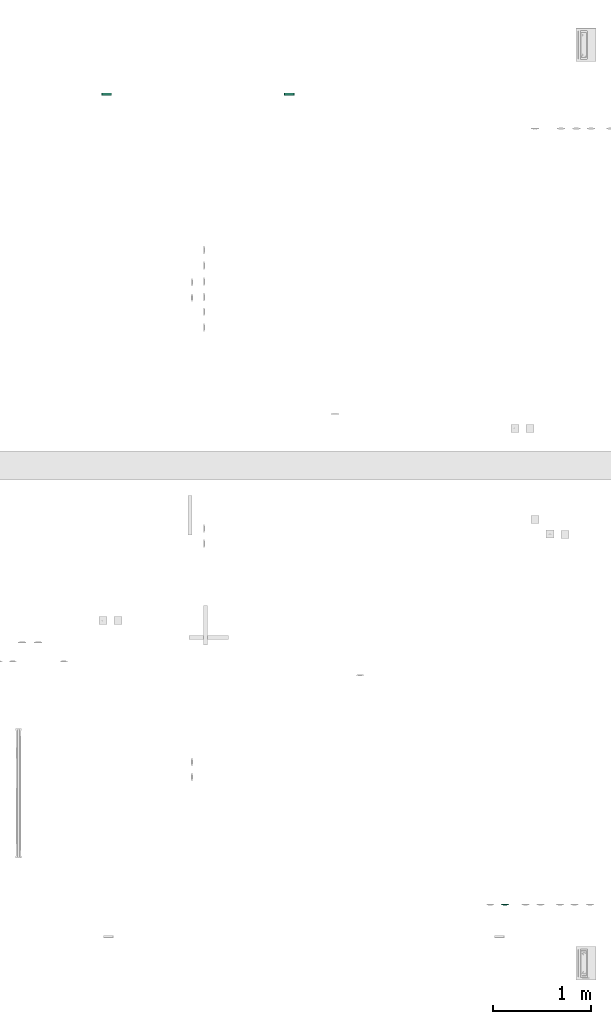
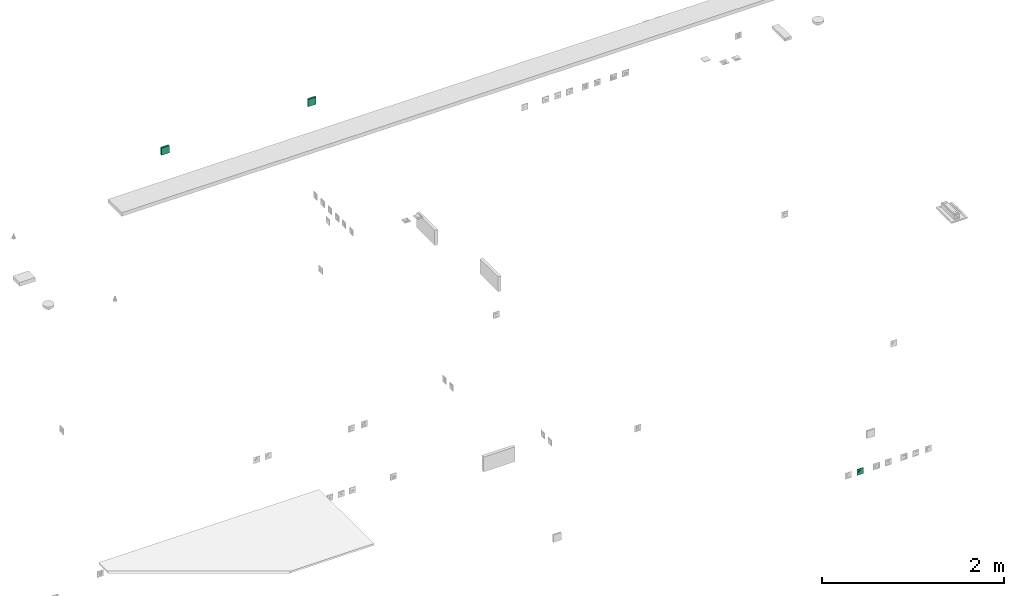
# One storey, part 67 of 146: 3 flow terminals.
"""IFC2X3 building model written with IfcOpenShell, lengths in metres."""

from ifc_helpers import new_model, entity, si_unit, converted_unit, derived_unit, direction, frame, origin, origin_2d_with_axis, place, context, subcontext, project, spatial, rectangle, extrude, face_set, surface_model, source, transform, mapped, type_object, type_shapes, element, save


model = new_model("IFC2X3")

# Units and contexts
model_context = context("Model", 3, precision=1e-05, world=origin(), true_north=direction((6.12303176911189e-17, 1.0)))
body_context = subcontext(model_context, "Body", "Model", "MODEL_VIEW")
ifc_project = project(units=[si_unit("LENGTHUNIT", "METRE"), si_unit("AREAUNIT", "SQUARE_METRE"), si_unit("VOLUMEUNIT", "CUBIC_METRE"), converted_unit("PLANEANGLEUNIT", "DEGREE", entity("IfcRatioMeasure", 0.0174532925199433), si_unit("PLANEANGLEUNIT", "RADIAN"), dimensions=[0, 0, 0, 0, 0, 0, 0]), si_unit("MASSUNIT", "GRAM", prefix="KILO"), derived_unit("MASSDENSITYUNIT", [(si_unit("MASSUNIT", "GRAM", prefix="KILO"), 1), (si_unit("LENGTHUNIT", "METRE"), -3)]), si_unit("TIMEUNIT", "SECOND"), si_unit("FREQUENCYUNIT", "HERTZ"), si_unit("THERMODYNAMICTEMPERATUREUNIT", "DEGREE_CELSIUS"), derived_unit("THERMALTRANSMITTANCEUNIT", [(si_unit("MASSUNIT", "GRAM", prefix="KILO"), 1), (si_unit("THERMODYNAMICTEMPERATUREUNIT", "KELVIN"), -1), (si_unit("TIMEUNIT", "SECOND"), -3)]), derived_unit("VOLUMETRICFLOWRATEUNIT", [(si_unit("LENGTHUNIT", "METRE"), 3), (si_unit("TIMEUNIT", "SECOND"), -1)]), si_unit("ELECTRICCURRENTUNIT", "AMPERE"), si_unit("ELECTRICVOLTAGEUNIT", "VOLT"), si_unit("POWERUNIT", "WATT"), si_unit("FORCEUNIT", "NEWTON"), si_unit("ILLUMINANCEUNIT", "LUX"), si_unit("LUMINOUSFLUXUNIT", "LUMEN"), si_unit("LUMINOUSINTENSITYUNIT", "CANDELA"), derived_unit("USERDEFINED", [(si_unit("MASSUNIT", "GRAM", prefix="KILO"), -1), (si_unit("LENGTHUNIT", "METRE"), -2), (si_unit("TIMEUNIT", "SECOND"), 3), (si_unit("LUMINOUSFLUXUNIT", "LUMEN"), 1)]), derived_unit("LINEARVELOCITYUNIT", [(si_unit("LENGTHUNIT", "METRE"), 1), (si_unit("TIMEUNIT", "SECOND"), -1)]), si_unit("PRESSUREUNIT", "PASCAL"), derived_unit("USERDEFINED", [(si_unit("LENGTHUNIT", "METRE"), -2), (si_unit("MASSUNIT", "GRAM", prefix="KILO"), 1), (si_unit("TIMEUNIT", "SECOND"), -2)])], contexts=[model_context])

# Site, building, storey
site_placement = place(None, origin())
site = spatial("IfcSite", under=ifc_project, at=site_placement, Name="Default", CompositionType="ELEMENT")
building_placement = place(site_placement, origin())
building = spatial("IfcBuilding", under=site, at=building_placement, CompositionType="ELEMENT")
storey_placement = place(building_placement, origin())
storey = spatial("IfcBuildingStorey", under=building, at=storey_placement, Name="S01", CompositionType="ELEMENT", Elevation=0.0)

# Flow terminals
light_fixture_type_1 = type_object("IfcLightFixtureType", Name="IP20 ONDULEE", PredefinedType="NOTDEFINED")
shared_shape_1 = source(origin(), body_context, "Body", "SurfaceModel", [
    surface_model("IfcFaceBasedSurfaceModel", [(-0.00225000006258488, 0.0127499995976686, 0.00949633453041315), (0.0, 0.0104999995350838, 0.00949633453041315), (0.0, 0.0115376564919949, 0.0101656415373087), (0.0, 0.0139623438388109, 0.0101656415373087), (0.0, 0.0144589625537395, 0.00984531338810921), (0.0, 0.0121178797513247, 0.0102778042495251), (0.0, 0.0133821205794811, 0.0102778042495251), (0.0, 0.0127499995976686, 0.010399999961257), (0.0, 0.0149999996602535, 0.00949633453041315), (0.00225000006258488, 0.0127499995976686, 0.00949633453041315), (0.0, 0.0110410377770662, 0.00984531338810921), (0.0, 0.0127499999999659, 0.00949633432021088), (0.00225000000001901, 0.0127499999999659, 0.00949633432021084), (0.00217333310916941, 0.0121676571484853, 0.00949633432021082), (0.00194855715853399, 0.0116249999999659, 0.00949633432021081), (0.00159099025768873, 0.0111590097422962, 0.00949633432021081), (0.001125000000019, 0.010801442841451, 0.00949633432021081), (0.00058234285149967, 0.0105766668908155, 0.00949633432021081), (0.0, 0.0104999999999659, 0.00949633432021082), (-0.000582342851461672, 0.0105766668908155, 0.00949633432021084), (-0.001124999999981, 0.010801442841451, 0.00949633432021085), (-0.00159099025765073, 0.0111590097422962, 0.00949633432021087), (-0.00194855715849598, 0.011624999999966, 0.00949633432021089), (-0.0021733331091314, 0.0121676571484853, 0.00949633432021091), (-0.00224999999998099, 0.012749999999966, 0.00949633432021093), (-0.00217333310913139, 0.0133323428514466, 0.00949633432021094), (-0.00194855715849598, 0.013874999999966, 0.00949633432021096), (-0.00159099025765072, 0.0143409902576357, 0.00949633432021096), (-0.00112499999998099, 0.0146985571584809, 0.00949633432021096), (-0.00058234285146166, 0.0149233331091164, 0.00949633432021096), (0.0, 0.0149999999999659, 0.00949633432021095), (0.000582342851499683, 0.0149233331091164, 0.00949633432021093), (0.00112500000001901, 0.0146985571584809, 0.00949633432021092), (0.00159099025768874, 0.0143409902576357, 0.00949633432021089), (0.001948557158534, 0.0138749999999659, 0.00949633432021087), (0.00217333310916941, 0.0133323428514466, 0.00949633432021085), (0.00225000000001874, 0.0127499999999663, -0.00360000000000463), (0.00217333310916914, 0.0121676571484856, -0.00360000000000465), (0.00194855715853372, 0.0116249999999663, -0.00360000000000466), (0.00159099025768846, 0.0111590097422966, -0.00360000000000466), (0.00112500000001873, 0.0108014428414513, -0.00360000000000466), (0.000582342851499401, 0.0105766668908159, -0.00360000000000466), (0.0, 0.0104999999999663, -0.00360000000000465), (-0.000582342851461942, 0.0105766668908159, -0.00360000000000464), (-0.00112499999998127, 0.0108014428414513, -0.00360000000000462), (-0.001590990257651, 0.0111590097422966, -0.0036000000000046), (-0.00194855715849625, 0.0116249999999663, -0.00360000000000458), (-0.00217333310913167, 0.0121676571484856, -0.00360000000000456), (-0.00224999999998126, 0.0127499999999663, -0.00360000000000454), (-0.00217333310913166, 0.013332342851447, -0.00360000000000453), (-0.00194855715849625, 0.0138749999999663, -0.00360000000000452), (-0.00159099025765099, 0.014340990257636, -0.00360000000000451), (-0.00112499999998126, 0.0146985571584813, -0.00360000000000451), (-0.000582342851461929, 0.0149233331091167, -0.00360000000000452), (0.0, 0.0149999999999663, -0.00360000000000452), (0.000582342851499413, 0.0149233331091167, -0.00360000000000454), (0.00112500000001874, 0.0146985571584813, -0.00360000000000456), (0.00159099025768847, 0.014340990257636, -0.00360000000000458), (0.00194855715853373, 0.0138749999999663, -0.0036000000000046), (0.00217333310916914, 0.013332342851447, -0.00360000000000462), (0.0270000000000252, 0.026999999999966, 0.0113999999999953), (-0.0269999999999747, 0.026999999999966, 0.0113999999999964), (-0.0269999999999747, -0.0270000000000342, 0.0113999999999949), (0.0270000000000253, -0.0270000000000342, 0.0113999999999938), (-0.0199999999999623, 0.0, 0.0113999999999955), (-0.0193185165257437, -0.00517638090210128, 0.0113999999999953), (-0.0173205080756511, -0.0100000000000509, 0.0113999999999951), (-0.0141421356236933, -0.0141421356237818, 0.011399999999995), (-0.00999999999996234, -0.0173205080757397, 0.0113999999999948), (-0.00517638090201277, -0.0193185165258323, 0.0113999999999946), (0.0, -0.0200000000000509, 0.0113999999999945), (0.00517638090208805, -0.0193185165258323, 0.0113999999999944), (0.0100000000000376, -0.0173205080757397, 0.0113999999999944), (0.0141421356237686, -0.0141421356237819, 0.0113999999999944), (0.0173205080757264, -0.010000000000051, 0.0113999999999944), (0.0193185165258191, -0.00517638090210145, 0.0113999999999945), (0.0200000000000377, 0.0, 0.0113999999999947), (0.0193185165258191, 0.00517638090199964, 0.0113999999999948), (0.0173205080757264, 0.0099999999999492, 0.011399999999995), (0.0141421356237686, 0.0141421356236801, 0.0113999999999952), (0.0100000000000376, 0.0173205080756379, 0.0113999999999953), (0.00517638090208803, 0.0193185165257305, 0.0113999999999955), (0.0, 0.0199999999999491, 0.0113999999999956), (-0.00517638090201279, 0.0193185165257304, 0.0113999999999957), (-0.00999999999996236, 0.0173205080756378, 0.0113999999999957), (-0.0141421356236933, 0.01414213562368, 0.0113999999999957), (-0.0173205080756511, 0.00999999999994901, 0.0113999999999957), (-0.0193185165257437, 0.00517638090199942, 0.0113999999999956), (0.0270000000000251, 0.0269999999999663, 0.00199999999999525), (0.0270000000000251, -0.0270000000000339, 0.00199999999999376), (-0.0269999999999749, -0.0270000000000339, 0.00199999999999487), (-0.0269999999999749, 0.0269999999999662, 0.00199999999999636), (0.0210000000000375, 0.0, 0.00199999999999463), (0.0202844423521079, -0.00543519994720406, 0.00199999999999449), (0.0181865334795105, -0.0105000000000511, 0.0019999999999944), (0.0148492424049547, -0.0148492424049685, 0.00199999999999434), (0.0105000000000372, -0.0181865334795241, 0.00199999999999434), (0.0054351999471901, -0.0202844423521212, 0.00199999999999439), (0.0, -0.0210000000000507, 0.00199999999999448), (-0.00543519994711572, -0.020284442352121, 0.00199999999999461), (-0.0104999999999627, -0.0181865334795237, 0.00199999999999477), (-0.0148492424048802, -0.014849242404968, 0.00199999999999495), (-0.0181865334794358, -0.0105000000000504, 0.00199999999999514), (-0.020284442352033, -0.00543519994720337, 0.00199999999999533), (-0.0209999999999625, 0.0, 0.00199999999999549), (-0.0202844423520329, 0.0054351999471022, 0.00199999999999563), (-0.0181865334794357, 0.0104999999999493, 0.00199999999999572), (-0.01484924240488, 0.0148492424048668, 0.00199999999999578), (-0.0104999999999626, 0.0181865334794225, 0.00199999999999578), (-0.00543519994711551, 0.0202844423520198, 0.00199999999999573), (0.0, 0.0209999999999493, 0.00199999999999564), (0.00543519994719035, 0.0202844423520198, 0.00199999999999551), (0.0105000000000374, 0.0181865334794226, 0.00199999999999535), (0.0148492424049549, 0.0148492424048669, 0.00199999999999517), (0.0181865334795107, 0.0104999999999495, 0.00199999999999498), (0.0202844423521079, 0.00543519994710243, 0.00199999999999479), (0.0200000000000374, 0.0, -0.00360000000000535), (0.0193185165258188, -0.00517638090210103, -0.00360000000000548), (0.0173205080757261, -0.0100000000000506, -0.00360000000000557), (0.0141421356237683, -0.0141421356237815, -0.00360000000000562), (0.0100000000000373, -0.0173205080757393, -0.00360000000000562), (0.00517638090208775, -0.0193185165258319, -0.00360000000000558), (0.0, -0.0200000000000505, -0.00360000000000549), (-0.00517638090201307, -0.0193185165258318, -0.00360000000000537), (-0.00999999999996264, -0.0173205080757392, -0.00360000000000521), (-0.0141421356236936, -0.0141421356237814, -0.00360000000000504), (-0.0173205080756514, -0.0100000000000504, -0.00360000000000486), (-0.019318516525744, -0.00517638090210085, -0.00360000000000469), (-0.0199999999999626, 0.0, -0.00360000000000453), (-0.0193185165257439, 0.00517638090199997, -0.0036000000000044), (-0.0173205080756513, 0.00999999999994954, -0.00360000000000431), (-0.0141421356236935, 0.0141421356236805, -0.00360000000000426), (-0.00999999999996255, 0.0173205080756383, -0.00360000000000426), (-0.00517638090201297, 0.0193185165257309, -0.0036000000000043), (0.0, 0.0199999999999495, -0.00360000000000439), (0.00517638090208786, 0.0193185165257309, -0.00360000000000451), (0.0100000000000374, 0.0173205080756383, -0.00360000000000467), (0.0141421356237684, 0.0141421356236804, -0.00360000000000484), (0.0173205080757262, 0.0099999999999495, -0.00360000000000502), (0.0193185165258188, 0.00517638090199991, -0.00360000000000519), (-0.0123499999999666, 0.0, -0.00360000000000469), (-0.0122562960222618, -0.000711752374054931, -0.00360000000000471), (-0.0119815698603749, -0.00137500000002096, -0.00360000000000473), (-0.0115445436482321, -0.00194454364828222, -0.00360000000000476), (-0.0109749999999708, -0.00238156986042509, -0.00360000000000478), (-0.0103117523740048, -0.00265629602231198, -0.0036000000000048), (-0.00959999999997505, -0.00275000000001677, -0.00360000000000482), (-0.0088882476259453, -0.00265629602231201, -0.00360000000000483), (-0.00822499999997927, -0.00238156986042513, -0.00360000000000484), (-0.00765545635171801, -0.00194454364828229, -0.00360000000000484), (-0.00721843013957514, -0.00137500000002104, -0.00360000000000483), (-0.00694370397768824, -0.000711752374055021, -0.00360000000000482), (-0.00684999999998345, 0.0, -0.0036000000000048), (-0.00694370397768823, 0.000711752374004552, -0.00360000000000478), (-0.00721843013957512, 0.00137499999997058, -0.00360000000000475), (-0.00765545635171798, 0.00194454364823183, -0.00360000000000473), (-0.00822499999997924, 0.00238156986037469, -0.0036000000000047), (-0.00888824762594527, 0.00265629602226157, -0.00360000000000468), (-0.00959999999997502, 0.00274999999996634, -0.00360000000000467), (-0.0103117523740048, 0.00265629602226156, -0.00360000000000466), (-0.0109749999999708, 0.00238156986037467, -0.00360000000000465), (-0.011544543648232, 0.00194454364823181, -0.00360000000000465), (-0.0119815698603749, 0.00137499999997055, -0.00360000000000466), (-0.0122562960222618, 0.000711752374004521, -0.00360000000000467), (0.00685000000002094, 0.0, -0.00360000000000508), (0.0069437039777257, -0.00071175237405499, -0.0036000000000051), (0.00721843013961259, -0.00137500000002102, -0.00360000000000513), (0.00765545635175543, -0.00194454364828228, -0.00360000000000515), (0.00822500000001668, -0.00238156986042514, -0.00360000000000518), (0.00888824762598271, -0.00265629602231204, -0.0036000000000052), (0.00960000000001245, -0.00275000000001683, -0.00360000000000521), (0.0103117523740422, -0.00265629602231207, -0.00360000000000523), (0.0109750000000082, -0.00238156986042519, -0.00360000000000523), (0.0115445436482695, -0.00194454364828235, -0.00360000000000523), (0.0119815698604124, -0.0013750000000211, -0.00360000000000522), (0.0122562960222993, -0.00071175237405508, -0.00360000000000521), (0.012350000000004, 0.0, -0.00360000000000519), (0.0122562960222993, 0.000711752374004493, -0.00360000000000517), (0.0119815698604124, 0.00137499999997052, -0.00360000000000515), (0.0115445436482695, 0.00194454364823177, -0.00360000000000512), (0.0109750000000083, 0.00238156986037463, -0.0036000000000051), (0.0103117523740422, 0.00265629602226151, -0.00360000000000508), (0.00960000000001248, 0.00274999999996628, -0.00360000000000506), (0.00888824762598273, 0.0026562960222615, -0.00360000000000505), (0.0082250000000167, 0.00238156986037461, -0.00360000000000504), (0.00765545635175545, 0.00194454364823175, -0.00360000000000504), (0.0072184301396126, 0.00137499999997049, -0.00360000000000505), (0.00694370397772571, 0.000711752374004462, -0.00360000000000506), (0.0210000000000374, 0.0, -0.00460000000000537), (0.0202844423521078, -0.00543519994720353, -0.00460000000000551), (0.0181865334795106, -0.0105000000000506, -0.0046000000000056), (0.0148492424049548, -0.0148492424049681, -0.00460000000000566), (0.0105000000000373, -0.0181865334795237, -0.00460000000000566), (0.00543519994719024, -0.0202844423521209, -0.00460000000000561), (0.0, -0.0210000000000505, -0.00460000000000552), (-0.00543519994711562, -0.0202844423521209, -0.00460000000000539), (-0.0104999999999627, -0.0181865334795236, -0.00460000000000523), (-0.0148492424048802, -0.0148492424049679, -0.00460000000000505), (-0.0181865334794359, -0.0105000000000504, -0.00460000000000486), (-0.0202844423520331, -0.00543519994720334, -0.00460000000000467), (-0.0209999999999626, 0.0, -0.00460000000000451), (-0.020284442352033, 0.00543519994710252, -0.00460000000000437), (-0.0181865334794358, 0.0104999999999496, -0.00460000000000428), (-0.0148492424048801, 0.0148492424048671, -0.00460000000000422), (-0.0104999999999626, 0.0181865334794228, -0.00460000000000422), (-0.00543519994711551, 0.02028444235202, -0.00460000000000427), (0.0, 0.0209999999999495, -0.00460000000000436), (0.00543519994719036, 0.02028444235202, -0.00460000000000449), (0.0105000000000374, 0.0181865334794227, -0.00460000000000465), (0.0148492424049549, 0.014849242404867, -0.00460000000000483), (0.0181865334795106, 0.0104999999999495, -0.00460000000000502), (0.0202844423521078, 0.00543519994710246, -0.00460000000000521), (-0.00684999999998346, 0.0, -0.0046000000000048), (-0.00694370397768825, 0.000711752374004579, -0.00460000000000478), (-0.00721843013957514, 0.00137499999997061, -0.00460000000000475), (-0.007655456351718, 0.00194454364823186, -0.00460000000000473), (-0.00822499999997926, 0.00238156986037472, -0.0046000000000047), (-0.00888824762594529, 0.0026562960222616, -0.00460000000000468), (-0.00959999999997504, 0.00274999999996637, -0.00460000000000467), (-0.0103117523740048, 0.00265629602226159, -0.00460000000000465), (-0.0109749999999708, 0.0023815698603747, -0.00460000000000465), (-0.0115445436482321, 0.00194454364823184, -0.00460000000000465), (-0.0119815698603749, 0.00137499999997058, -0.00460000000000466), (-0.0122562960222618, 0.000711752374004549, -0.00460000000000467), (-0.0123499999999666, 0.0, -0.00460000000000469), (-0.0122562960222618, -0.000711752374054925, -0.00460000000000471), (-0.0119815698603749, -0.00137500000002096, -0.00460000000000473), (-0.0115445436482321, -0.00194454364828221, -0.00460000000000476), (-0.0109749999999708, -0.00238156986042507, -0.00460000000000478), (-0.0103117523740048, -0.00265629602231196, -0.0046000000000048), (-0.00959999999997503, -0.00275000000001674, -0.00460000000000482), (-0.00888824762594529, -0.00265629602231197, -0.00460000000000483), (-0.00822499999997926, -0.00238156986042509, -0.00460000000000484), (-0.007655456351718, -0.00194454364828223, -0.00460000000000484), (-0.00721843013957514, -0.00137500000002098, -0.00460000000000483), (-0.00694370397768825, -0.000711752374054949, -0.00460000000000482), (0.012350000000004, 0.0, -0.00460000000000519), (0.0122562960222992, 0.000711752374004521, -0.00460000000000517), (0.0119815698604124, 0.00137499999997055, -0.00460000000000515), (0.0115445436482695, 0.0019445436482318, -0.00460000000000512), (0.0109750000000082, 0.00238156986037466, -0.0046000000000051), (0.0103117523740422, 0.00265629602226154, -0.00460000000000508), (0.00960000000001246, 0.00274999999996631, -0.00460000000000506), (0.00888824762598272, 0.00265629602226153, -0.00460000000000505), (0.00822500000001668, 0.00238156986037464, -0.00460000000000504), (0.00765545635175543, 0.00194454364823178, -0.00460000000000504), (0.00721843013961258, 0.00137499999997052, -0.00460000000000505), (0.00694370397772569, 0.00071175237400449, -0.00460000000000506), (0.00685000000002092, 0.0, -0.00460000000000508), (0.00694370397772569, -0.000711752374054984, -0.0046000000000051), (0.00721843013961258, -0.00137500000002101, -0.00460000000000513), (0.00765545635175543, -0.00194454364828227, -0.00460000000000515), (0.00822500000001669, -0.00238156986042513, -0.00460000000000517), (0.00888824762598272, -0.00265629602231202, -0.0046000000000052), (0.00960000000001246, -0.0027500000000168, -0.00460000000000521), (0.0103117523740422, -0.00265629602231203, -0.00460000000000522), (0.0109750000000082, -0.00238156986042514, -0.00460000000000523), (0.0115445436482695, -0.00194454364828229, -0.00460000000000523), (0.0119815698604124, -0.00137500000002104, -0.00460000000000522), (0.0122562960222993, -0.000711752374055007, -0.00460000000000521), (0.040350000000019, 0.0403499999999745, 0.00659999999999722), (0.040350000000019, -0.0403500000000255, 0.00659999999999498), (-0.0403499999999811, -0.0403500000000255, 0.00659999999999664), (-0.0403499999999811, 0.0403499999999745, 0.00659999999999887), (0.027000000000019, 0.0269999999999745, 0.00659999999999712), (-0.0269999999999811, 0.0269999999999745, 0.00659999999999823), (-0.026999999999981, -0.0270000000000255, 0.00659999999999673), (0.027000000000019, -0.0270000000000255, 0.00659999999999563), (0.027000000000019, 0.0269999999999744, 0.0103999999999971), (-0.026999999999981, 0.0269999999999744, 0.0103999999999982), (-0.026999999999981, -0.0270000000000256, 0.0103999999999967), (0.027000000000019, -0.0270000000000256, 0.0103999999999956), (0.040350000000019, 0.0403499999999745, 0.00659999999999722), (0.040350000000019, -0.0403500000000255, 0.00659999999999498), (-0.0403499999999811, -0.0403500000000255, 0.00659999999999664), (-0.0403499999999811, 0.0403499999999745, 0.00659999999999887), (-0.0269999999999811, 0.0269999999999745, 0.00659999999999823), (-0.0269999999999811, -0.0270000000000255, 0.00659999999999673), (0.0270000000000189, -0.0270000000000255, 0.00659999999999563), (0.0270000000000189, 0.0269999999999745, 0.00659999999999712), (0.0403500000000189, 0.0403499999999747, 0.0), (0.0403500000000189, -0.0403500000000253, 0.0), (-0.0403499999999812, -0.0403500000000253, 0.0), (-0.0403499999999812, 0.0403499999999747, 0.0), (0.0270000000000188, 0.0269999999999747, 0.0), (-0.0269999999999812, 0.0269999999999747, 0.0), (-0.0269999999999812, -0.0270000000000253, 0.0), (0.0270000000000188, -0.0270000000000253, 0.0)], [face_set([[[0, 1, 2]], [[3, 4, 2, 5]], [[6, 3, 5, 7]], [[2, 4, 0]], [[4, 8, 0]], [[3, 9, 8]], [[1, 9, 10]], [[2, 3, 6, 7]], [[3, 10, 9]], [[2, 10, 3]], [[11, 1, 0, 8]], [[11, 8, 9, 1]]]), face_set([[[12, 13, 14, 15, 16, 17, 18, 19, 20, 21, 22, 23, 24, 25, 26, 27, 28, 29, 30, 31, 32, 33, 34, 35]], [[36, 37, 38, 39, 40, 41, 42, 43, 44, 45, 46, 47, 48, 49, 50, 51, 52, 53, 54, 55, 56, 57, 58, 59]], [[48, 47, 23, 24]], [[47, 46, 22, 23]], [[45, 44, 20, 21]], [[46, 45, 21, 22]], [[44, 43, 19, 20]], [[18, 19, 43, 42]], [[42, 41, 17, 18]], [[41, 40, 16, 17]], [[39, 38, 14, 15]], [[40, 39, 15, 16]], [[38, 37, 13, 14]], [[12, 13, 37, 36]], [[36, 59, 35, 12]], [[59, 58, 34, 35]], [[57, 56, 32, 33]], [[58, 57, 33, 34]], [[56, 55, 31, 32]], [[30, 31, 55, 54]], [[54, 53, 29, 30]], [[53, 52, 28, 29]], [[51, 50, 26, 27]], [[52, 51, 27, 28]], [[50, 49, 25, 26]], [[24, 25, 49, 48]]]), face_set([[[60, 61, 62, 63], [64, 65, 66, 67, 68, 69, 70, 71, 72, 73, 74, 75, 76, 77, 78, 79, 80, 81, 82, 83, 84, 85, 86, 87]], [[88, 89, 90, 91], [92, 93, 94, 95, 96, 97, 98, 99, 100, 101, 102, 103, 104, 105, 106, 107, 108, 109, 110, 111, 112, 113, 114, 115]], [[61, 60, 88, 91]], [[62, 61, 91, 90]], [[63, 62, 90, 89]], [[60, 63, 89, 88]], [[116, 117, 118, 119, 120, 121, 122, 123, 124, 125, 126, 127, 128, 129, 130, 131, 132, 133, 134, 135, 136, 137, 138, 139], [140, 141, 142, 143, 144, 145, 146, 147, 148, 149, 150, 151, 152, 153, 154, 155, 156, 157, 158, 159, 160, 161, 162, 163], [164, 165, 166, 167, 168, 169, 170, 171, 172, 173, 174, 175, 176, 177, 178, 179, 180, 181, 182, 183, 184, 185, 186, 187]], [[64, 128, 127, 65]], [[65, 127, 126, 66]], [[67, 125, 124, 68]], [[66, 126, 125, 67]], [[68, 124, 123, 69]], [[122, 70, 69, 123]], [[70, 122, 121, 71]], [[71, 121, 120, 72]], [[73, 119, 118, 74]], [[72, 120, 119, 73]], [[74, 118, 117, 75]], [[116, 76, 75, 117]], [[76, 116, 139, 77]], [[77, 139, 138, 78]], [[79, 137, 136, 80]], [[78, 138, 137, 79]], [[80, 136, 135, 81]], [[134, 82, 81, 135]], [[82, 134, 133, 83]], [[83, 133, 132, 84]], [[84, 132, 131, 85]], [[85, 131, 130, 86]], [[130, 129, 87, 86]], [[64, 87, 129, 128]], [[188, 189, 190, 191, 192, 193, 194, 195, 196, 197, 198, 199, 200, 201, 202, 203, 204, 205, 206, 207, 208, 209, 210, 211], [212, 213, 214, 215, 216, 217, 218, 219, 220, 221, 222, 223, 224, 225, 226, 227, 228, 229, 230, 231, 232, 233, 234, 235], [236, 237, 238, 239, 240, 241, 242, 243, 244, 245, 246, 247, 248, 249, 250, 251, 252, 253, 254, 255, 256, 257, 258, 259]], [[200, 199, 103, 104]], [[199, 198, 102, 103]], [[197, 196, 100, 101]], [[198, 197, 101, 102]], [[196, 195, 99, 100]], [[98, 99, 195, 194]], [[194, 193, 97, 98]], [[193, 192, 96, 97]], [[191, 190, 94, 95]], [[192, 191, 95, 96]], [[190, 189, 93, 94]], [[92, 93, 189, 188]], [[188, 211, 115, 92]], [[211, 210, 114, 115]], [[209, 208, 112, 113]], [[210, 209, 113, 114]], [[208, 207, 111, 112]], [[110, 111, 207, 206]], [[206, 205, 109, 110]], [[205, 204, 108, 109]], [[203, 202, 106, 107]], [[204, 203, 107, 108]], [[202, 201, 105, 106]], [[104, 105, 201, 200]], [[141, 225, 226, 142]], [[140, 224, 225, 141]], [[144, 228, 229, 145]], [[143, 227, 228, 144]], [[142, 226, 227, 143]], [[230, 146, 145, 229]], [[149, 233, 232, 148]], [[148, 232, 231, 147]], [[152, 212, 235, 151]], [[151, 235, 234, 150]], [[150, 234, 233, 149]], [[146, 230, 231, 147]], [[154, 214, 213, 153]], [[153, 213, 212, 152]], [[157, 217, 216, 156]], [[156, 216, 215, 155]], [[155, 215, 214, 154]], [[218, 158, 157, 217]], [[160, 220, 221, 161]], [[159, 219, 220, 160]], [[163, 223, 224, 140]], [[162, 222, 223, 163]], [[161, 221, 222, 162]], [[158, 218, 219, 159]], [[166, 250, 249, 165]], [[165, 249, 248, 164]], [[169, 253, 252, 168]], [[168, 252, 251, 167]], [[167, 251, 250, 166]], [[254, 170, 169, 253]], [[172, 256, 257, 173]], [[171, 255, 256, 172]], [[175, 259, 236, 176]], [[174, 258, 259, 175]], [[173, 257, 258, 174]], [[170, 254, 255, 171]], [[177, 237, 238, 178]], [[176, 236, 237, 177]], [[180, 240, 241, 181]], [[179, 239, 240, 180]], [[178, 238, 239, 179]], [[242, 182, 181, 241]], [[185, 245, 244, 184]], [[184, 244, 243, 183]], [[164, 248, 247, 187]], [[187, 247, 246, 186]], [[186, 246, 245, 185]], [[182, 242, 243, 183]]]), face_set([[[260, 261, 262, 263], [264, 265, 266, 267]], [[260, 268, 269, 263]], [[263, 269, 270, 262]], [[262, 270, 271, 261]], [[261, 271, 268, 260]], [[264, 265, 269, 268]], [[265, 266, 270, 269]], [[266, 267, 271, 270]], [[268, 271, 267, 264]]]), face_set([[[272, 273, 274, 275], [276, 277, 278, 279]], [[280, 281, 282, 283], [284, 285, 286, 287]], [[275, 272, 280, 283]], [[274, 275, 283, 282]], [[273, 274, 282, 281]], [[272, 273, 281, 280]], [[284, 285, 276, 279]], [[285, 286, 277, 276]], [[286, 287, 278, 277]], [[279, 278, 287, 284]]])]),
])
type_shapes(light_fixture_type_1, [shared_shape_1])
flow_terminal_placement = place(storey_placement, frame((56.6174914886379, -193.177069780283, 0.320000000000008), z_axis=(0.0, 1.0, 0.0), x_axis=(-1.0, 0.0, 0.0)))
element("IfcFlowTerminal", 1, at=flow_terminal_placement, inside=storey, type_object=light_fixture_type_1, Name="INT Prise de courant:IP20 ONDULEE", ObjectType="INT Prise de courant:IP20 ONDULEE", context=body_context, shape_type="MappedRepresentation", body=[
    mapped(shared_shape_1, transform((0.0, 0.0, 0.0), scale=1.0)),
])
light_fixture_type_2 = type_object("IfcLightFixtureType", Name="Default", PredefinedType="NOTDEFINED")
shared_shape_2 = source(origin(), body_context, "Body", "SweptSolid", [
    extrude(rectangle(XDim=0.1, YDim=0.1, at=origin_2d_with_axis()), frame((0.0, 0.0, 0.0), z_axis=(0.0, 0.0, 1.0), x_axis=(0.0, 1.0, 0.0)), (0.0, 0.0, 1.0), 0.02),
])
type_shapes(light_fixture_type_2, [shared_shape_2])
for number, where, z_axis, x_axis in (
    (2, (52.5565184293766, -184.926487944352, 1.05000000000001), (0.0, 1.0, 0.0), (-1.0, 0.0, 0.0)),
    (3, (54.4195184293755, -184.926487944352, 1.05000000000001), (0.0, 1.0, 0.0), (-1.0, 0.0, 0.0)),
):
    element("IfcFlowTerminal", number, at=place(storey_placement, frame(where, z_axis=z_axis, x_axis=x_axis)), inside=storey, type_object=light_fixture_type_2, Name="E_Reader_Badge 1_F_MEPcontent:Default", ObjectType="E_Reader_Badge 1_F_MEPcontent:Default", context=body_context, shape_type="MappedRepresentation", body=[
        mapped(shared_shape_2, transform((0.0, 0.0, 0.0), scale=1.0)),
    ])

save(model, "model.ifc")
